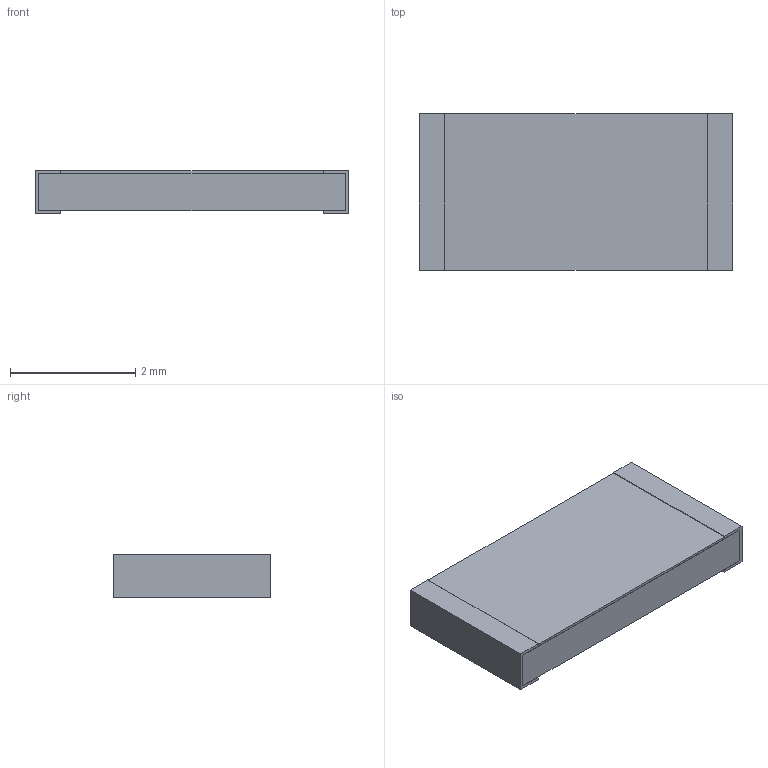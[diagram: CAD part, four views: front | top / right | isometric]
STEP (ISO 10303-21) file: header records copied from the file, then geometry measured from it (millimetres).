
FILE_DESCRIPTION(('STEP AP203'), '1');
FILE_NAME('Ð1-16Ï-0,25', '', ('UNSPECIFIED'), ('UNSPECIFIED'), 'ASCON STEP Converter 1.6', 'ASCON Math Kernel', '');
FILE_SCHEMA(('CONFIG_CONTROL_DESIGN'));
Length unit declared in the file: millimetre
Bounding box: 5 x 2.5 x 0.7 mm (x, y, z)
Volume: 8.1 mm3; surface area: 69.7 mm2
Topology: 4 solids, 4 shells, 32 faces, 72 edges, 48 vertices
Faces by surface type: plane 32
Entity records: 1194 total; most frequent: CARTESIAN_POINT 153, ORIENTED_EDGE 144, DIRECTION 138, EDGE_CURVE 72, LINE 72, VECTOR 72, VERTEX_POINT 48, COLOUR_RGB 36
